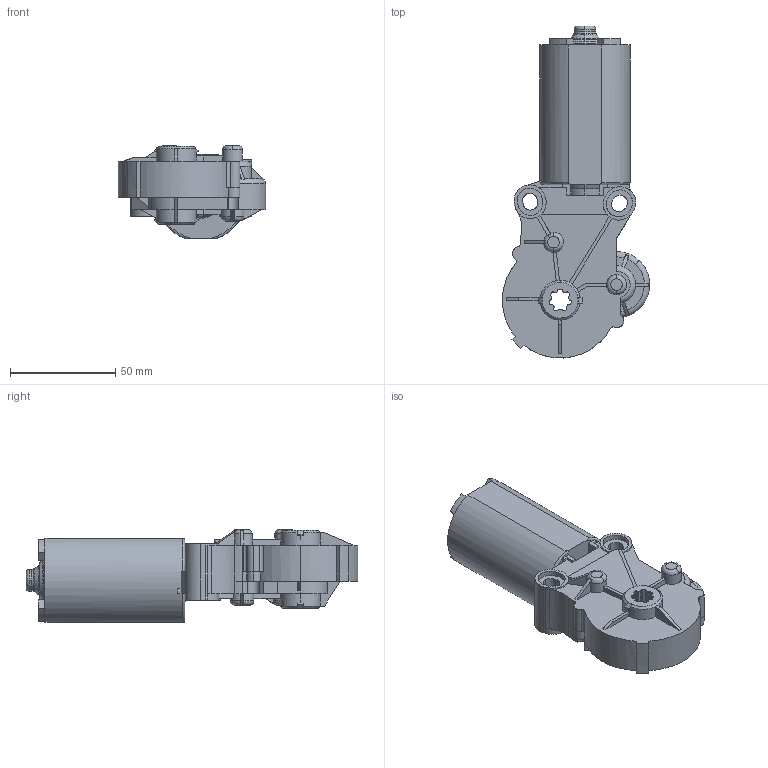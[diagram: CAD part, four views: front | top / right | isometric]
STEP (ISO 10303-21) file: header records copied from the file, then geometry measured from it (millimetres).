
FILE_DESCRIPTION (( 'STEP AP203' ), '1' );
FILE_NAME ('Motor-404682-KGK.step', '2005-10-25T08:40:17', ( 'System Administrator' ), ( 'Cevican' ), 'SwSTEP 2.0', 'SolidWorks 2002308', '' );
FILE_SCHEMA (( 'CONFIG_CONTROL_DESIGN' ));
Products named in the file (1): Motor-404682-KGK
Bounding box: 70.05 x 157.96 x 44.1 mm (x, y, z)
Volume: 195531.1 mm3; surface area: 31877.2 mm2
Topology: 1 solids, 1 shells, 419 faces, 1414 edges, 1003 vertices
Faces by surface type: bspline 257, cylinder 148, cone 14
Entity records: 33752 total; most frequent: CARTESIAN_POINT 24791, ORIENTED_EDGE 2828, EDGE_CURVE 1414, B_SPLINE_CURVE_WITH_KNOTS 1342, VERTEX_POINT 1003, EDGE_LOOP 431, ADVANCED_FACE 419, FACE_OUTER_BOUND 419
